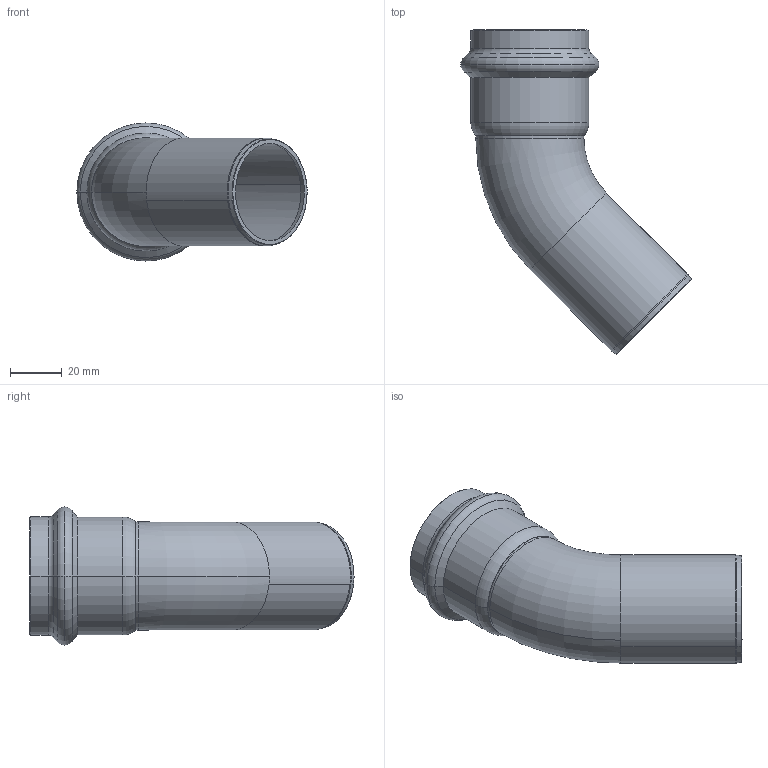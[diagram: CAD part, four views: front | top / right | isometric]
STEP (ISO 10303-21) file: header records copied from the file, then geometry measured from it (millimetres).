
FILE_DESCRIPTION(('CoCreate Modeling STEP Export'),'2;1');
FILE_NAME('8040VW42.stp','2013-01-29T14:44:29',(''),(''),'CoCreate Modeling STEP processor for AP214 (Solid Model)','CoCreate Modeling 17.00A 17-Jun-2010 (C) Parametric Technology GmbH','');
FILE_SCHEMA(('AUTOMOTIVE_DESIGN { 1 0 10303 214 1 1 1 1 }'));
Length unit declared in the file: millimetre
Products named in the file (1): 8040VW42
Bounding box: 89.43 x 125.82 x 53.61 mm (x, y, z)
Volume: 32879.2 mm3; surface area: 35202.4 mm2
Topology: 1 solids, 1 shells, 62 faces, 138 edges, 80 vertices
Faces by surface type: cone 20, torus 20, cylinder 18, plane 4
Entity records: 1385 total; most frequent: ORIENTED_EDGE 276, DIRECTION 214, CARTESIAN_POINT 206, EDGE_CURVE 138, AXIS2_PLACEMENT_3D 88, VERTEX_POINT 80, EDGE_LOOP 66, FACE_OUTER_BOUND 62
